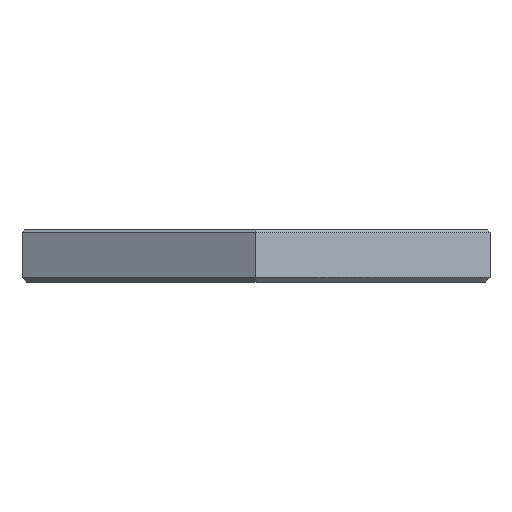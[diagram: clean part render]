
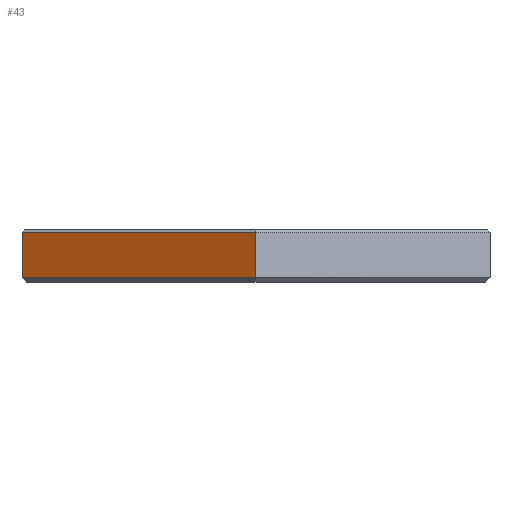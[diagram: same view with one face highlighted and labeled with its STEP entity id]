
A CAD part, front view. The second image highlights one B-rep face of the part: STEP entity #43.
In plain terms, the highlighted planar face has unit normal (-0.5, -0.866, 0).
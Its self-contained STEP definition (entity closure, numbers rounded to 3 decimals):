
#43=ADVANCED_FACE('',(#161),#1695,.T.);
#161=FACE_OUTER_BOUND('',#280,.T.);
#280=EDGE_LOOP('',(#528,#529,#530,#531));
#528=ORIENTED_EDGE('',*,*,#1030,.F.);
#529=ORIENTED_EDGE('',*,*,#1031,.T.);
#530=ORIENTED_EDGE('',*,*,#1032,.T.);
#531=ORIENTED_EDGE('',*,*,#1052,.F.);
#1030=EDGE_CURVE('',#1550,#1562,#1312,.T.);
#1031=EDGE_CURVE('',#1550,#1551,#1313,.T.);
#1032=EDGE_CURVE('',#1551,#1563,#1314,.T.);
#1052=EDGE_CURVE('',#1562,#1563,#1334,.T.);
#1312=B_SPLINE_CURVE_WITH_KNOTS('',1,(#2590,#2591),.UNSPECIFIED.,.F.,.F.,
(2,2),(1.2,12.545),.UNSPECIFIED.);
#1313=B_SPLINE_CURVE_WITH_KNOTS('',1,(#2592,#2593),.UNSPECIFIED.,.F.,.F.,
(2,2),(0.,70.),.UNSPECIFIED.);
#1314=B_SPLINE_CURVE_WITH_KNOTS('',1,(#2594,#2595),.UNSPECIFIED.,.F.,.F.,
(2,2),(1.2,12.545),.UNSPECIFIED.);
#1334=B_SPLINE_CURVE_WITH_KNOTS('',1,(#2694,#2695),.UNSPECIFIED.,.F.,.F.,
(2,2),(0.,70.),.UNSPECIFIED.);
#1550=VERTEX_POINT('',#2284);
#1551=VERTEX_POINT('',#2285);
#1562=VERTEX_POINT('',#2296);
#1563=VERTEX_POINT('',#2297);
#1695=PLANE('',#1901);
#1901=AXIS2_PLACEMENT_3D('',#2143,#2022,$);
#2022=DIRECTION('',(-0.5,-0.866,0.));
#2143=CARTESIAN_POINT('',(-60.622,-35.,-0.8));
#2284=CARTESIAN_POINT('',(-60.622,-35.,-0.8));
#2285=CARTESIAN_POINT('',(0.,-70.,-0.8));
#2296=CARTESIAN_POINT('',(-60.622,-35.,10.9));
#2297=CARTESIAN_POINT('',(0.,-70.,10.9));
#2590=CARTESIAN_POINT('',(-60.622,-35.,-0.8));
#2591=CARTESIAN_POINT('',(-60.622,-35.,10.9));
#2592=CARTESIAN_POINT('',(-60.622,-35.,-0.8));
#2593=CARTESIAN_POINT('',(0.,-70.,-0.8));
#2594=CARTESIAN_POINT('',(0.,-70.,-0.8));
#2595=CARTESIAN_POINT('',(0.,-70.,10.9));
#2694=CARTESIAN_POINT('',(-60.622,-35.,10.9));
#2695=CARTESIAN_POINT('',(0.,-70.,10.9));
